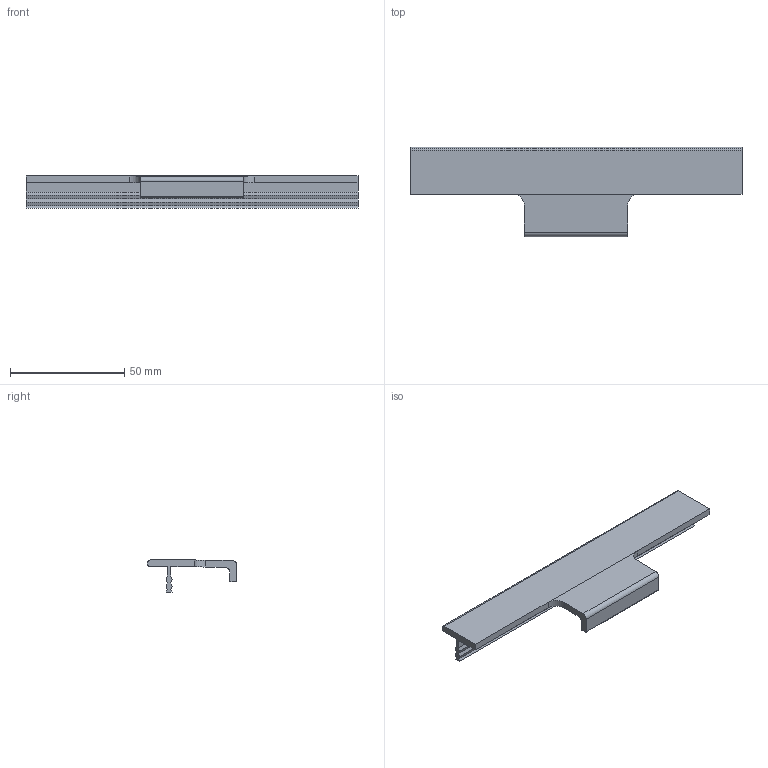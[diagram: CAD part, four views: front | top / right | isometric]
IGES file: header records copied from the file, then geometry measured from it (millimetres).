
Start section: Data from Parasolid IGES Translator 20.0.26, Copyright(c) 2006 Siemens P LM Software. All Rights Reserved.
Global section: file name: 9247827.igs; native system: By Siemens PLM Incorporated; preprocessor: XPlus GENERIC/IGES 20.0.26; author: Noname; organization: Noname; date: 20210623.170716; units: millimetre
Bounding box: 145 x 39 x 14 mm (x, y, z)
Surface area: 12567.9 mm2 (no closed solid volume)
Topology: 0 solids, 0 shells, 40 faces, 224 edges, 224 vertices
Faces by surface type: extrusion 30, revolution 10
